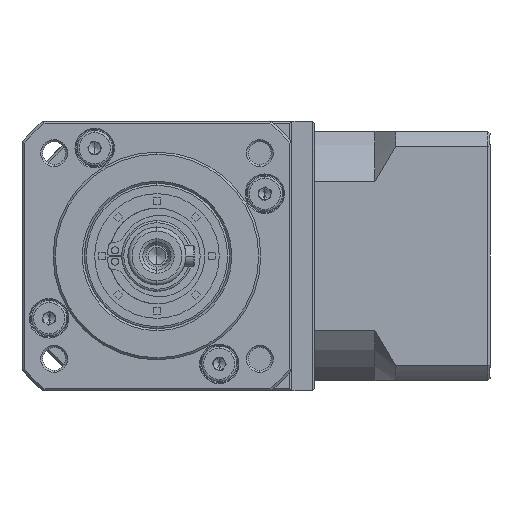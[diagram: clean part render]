
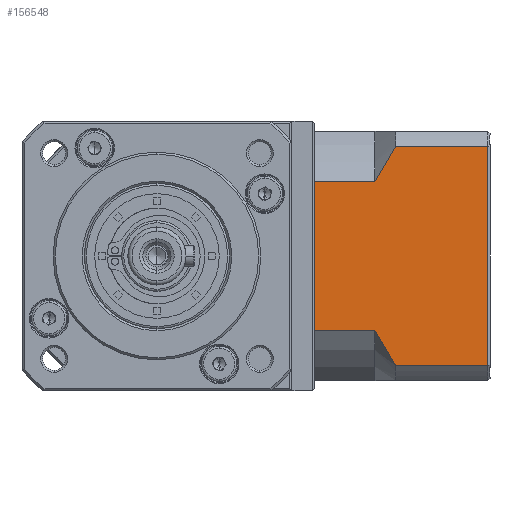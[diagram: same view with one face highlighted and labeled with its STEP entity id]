
A CAD part, left-side view. The second image highlights one B-rep face of the part: STEP entity #156548.
In plain terms, the highlighted planar face has unit normal (-1, 0, 0).
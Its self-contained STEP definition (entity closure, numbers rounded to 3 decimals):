
#743 = ORIENTED_EDGE ( 'NONE', *, *, #25677, .F. ) ;
#2316 = ORIENTED_EDGE ( 'NONE', *, *, #104238, .F. ) ;
#2617 = CARTESIAN_POINT ( 'NONE',  ( -38.56, -68.075, -137.608 ) ) ;
#3530 = EDGE_LOOP ( 'NONE', ( #743, #153005, #7545, #6306, #2316, #130829, #16154, #84185 ) ) ;
#4328 = LINE ( 'NONE', #163277, #67854 ) ;
#6306 = ORIENTED_EDGE ( 'NONE', *, *, #33042, .T. ) ;
#6550 = EDGE_CURVE ( 'NONE', #91688, #124320, #57456, .T. ) ;
#7545 = ORIENTED_EDGE ( 'NONE', *, *, #69282, .F. ) ;
#11665 = VECTOR ( 'NONE', #93668, 1000. ) ;
#12069 = VERTEX_POINT ( 'NONE', #96246 ) ;
#15702 = LINE ( 'NONE', #143955, #11665 ) ;
#16154 = ORIENTED_EDGE ( 'NONE', *, *, #25426, .F. ) ;
#25426 = EDGE_CURVE ( 'NONE', #31709, #139776, #41631, .T. ) ;
#25677 = EDGE_CURVE ( 'NONE', #91688, #144385, #15702, .T. ) ;
#27114 = CARTESIAN_POINT ( 'NONE',  ( -38.56, -95.775, -149.58 ) ) ;
#28638 = CARTESIAN_POINT ( 'NONE',  ( -38.56, -69.625, -140.489 ) ) ;
#31709 = VERTEX_POINT ( 'NONE', #153401 ) ;
#33042 = EDGE_CURVE ( 'NONE', #138272, #154006, #93627, .T. ) ;
#35897 = AXIS2_PLACEMENT_3D ( 'NONE', #27114, #115879, #39895 ) ;
#39895 = DIRECTION ( 'NONE',  ( 0., 1., 0. ) ) ;
#41385 = CARTESIAN_POINT ( 'NONE',  ( -38.56, -72.173, -144.675 ) ) ;
#41631 = LINE ( 'NONE', #149008, #71470 ) ;
#52115 = PLANE ( 'NONE',  #35897 ) ;
#53608 = LINE ( 'NONE', #150461, #146681 ) ;
#54533 = CARTESIAN_POINT ( 'NONE',  ( -38.56, -68.823, -100.1 ) ) ;
#57456 = LINE ( 'NONE', #155209, #87271 ) ;
#67405 = CARTESIAN_POINT ( 'NONE',  ( -38.56, -73.075, -93.122 ) ) ;
#67854 = VECTOR ( 'NONE', #74948, 1000. ) ;
#69282 = EDGE_CURVE ( 'NONE', #138272, #124320, #135939, .T. ) ;
#71470 = VECTOR ( 'NONE', #99879, 1000. ) ;
#74948 = DIRECTION ( 'NONE',  ( 0., -1., 0. ) ) ;
#78632 = CARTESIAN_POINT ( 'NONE',  ( -38.56, -68.825, -139.064 ) ) ;
#79565 = CARTESIAN_POINT ( 'NONE',  ( -38.56, -72.175, -94.482 ) ) ;
#82914 = EDGE_CURVE ( 'NONE', #31709, #144385, #131446, .T. ) ;
#84185 = ORIENTED_EDGE ( 'NONE', *, *, #82914, .T. ) ;
#87271 = VECTOR ( 'NONE', #142582, 1000. ) ;
#91132 = FACE_OUTER_BOUND ( 'NONE', #3530, .T. ) ;
#91688 = VERTEX_POINT ( 'NONE', #98345 ) ;
#91986 = DIRECTION ( 'NONE',  ( 0., -1., 0. ) ) ;
#93627 = B_SPLINE_CURVE_WITH_KNOTS ( 'NONE', 3,
 ( #117793, #79565, #155215, #130426, #54533, #143131 ),
 .UNSPECIFIED., .F., .F.,
 ( 4, 2, 4 ),
 ( 0.052, 0.057, 0.062 ),
 .UNSPECIFIED. ) ;
#93668 = DIRECTION ( 'NONE',  ( 0., 1., 0. ) ) ;
#96246 = CARTESIAN_POINT ( 'NONE',  ( -38.56, -53.575, -101.552 ) ) ;
#97367 = VECTOR ( 'NONE', #91986, 1000. ) ;
#98345 = CARTESIAN_POINT ( 'NONE',  ( -38.56, -95.275, -146.037 ) ) ;
#99879 = DIRECTION ( 'NONE',  ( 0., 1., 0. ) ) ;
#102456 = CARTESIAN_POINT ( 'NONE',  ( -38.56, -53.575, -137.608 ) ) ;
#104238 = EDGE_CURVE ( 'NONE', #12069, #154006, #4328, .T. ) ;
#115879 = DIRECTION ( 'NONE',  ( 1., 0., 0. ) ) ;
#117409 = CARTESIAN_POINT ( 'NONE',  ( -38.56, -71.299, -143.295 ) ) ;
#117793 = CARTESIAN_POINT ( 'NONE',  ( -38.56, -73.075, -93.122 ) ) ;
#124320 = VERTEX_POINT ( 'NONE', #153637 ) ;
#130046 = CARTESIAN_POINT ( 'NONE',  ( -38.56, -73.075, -146.037 ) ) ;
#130426 = CARTESIAN_POINT ( 'NONE',  ( -38.56, -69.626, -98.669 ) ) ;
#130829 = ORIENTED_EDGE ( 'NONE', *, *, #135976, .T. ) ;
#130984 = CARTESIAN_POINT ( 'NONE',  ( -38.56, -73.075, -146.037 ) ) ;
#131446 = B_SPLINE_CURVE_WITH_KNOTS ( 'NONE', 3,
 ( #2617, #78632, #28638, #117409, #41385, #130046 ),
 .UNSPECIFIED., .F., .F.,
 ( 4, 2, 4 ),
 ( 0.1, 0.104, 0.109 ),
 .UNSPECIFIED. ) ;
#135939 = LINE ( 'NONE', #154942, #97367 ) ;
#135976 = EDGE_CURVE ( 'NONE', #12069, #139776, #53608, .T. ) ;
#138272 = VERTEX_POINT ( 'NONE', #67405 ) ;
#139776 = VERTEX_POINT ( 'NONE', #102456 ) ;
#142582 = DIRECTION ( 'NONE',  ( 0., 0., 1. ) ) ;
#143131 = CARTESIAN_POINT ( 'NONE',  ( -38.56, -68.075, -101.552 ) ) ;
#143955 = CARTESIAN_POINT ( 'NONE',  ( -38.56, -68.075, -146.037 ) ) ;
#144385 = VERTEX_POINT ( 'NONE', #130984 ) ;
#146681 = VECTOR ( 'NONE', #163084, 1000. ) ;
#149008 = CARTESIAN_POINT ( 'NONE',  ( -38.56, -68.075, -137.608 ) ) ;
#150461 = CARTESIAN_POINT ( 'NONE',  ( -38.56, -53.575, -149.58 ) ) ;
#153005 = ORIENTED_EDGE ( 'NONE', *, *, #6550, .T. ) ;
#153401 = CARTESIAN_POINT ( 'NONE',  ( -38.56, -68.075, -137.608 ) ) ;
#153637 = CARTESIAN_POINT ( 'NONE',  ( -38.56, -95.275, -93.122 ) ) ;
#154006 = VERTEX_POINT ( 'NONE', #158687 ) ;
#154942 = CARTESIAN_POINT ( 'NONE',  ( -38.56, -68.075, -93.122 ) ) ;
#155209 = CARTESIAN_POINT ( 'NONE',  ( -38.56, -95.275, -149.58 ) ) ;
#155215 = CARTESIAN_POINT ( 'NONE',  ( -38.56, -71.302, -95.861 ) ) ;
#156548 = ADVANCED_FACE ( 'NONE', ( #91132 ), #52115, .F. ) ;
#158687 = CARTESIAN_POINT ( 'NONE',  ( -38.56, -68.075, -101.552 ) ) ;
#163084 = DIRECTION ( 'NONE',  ( 0., 0., -1. ) ) ;
#163277 = CARTESIAN_POINT ( 'NONE',  ( -38.56, -68.075, -101.552 ) ) ;
